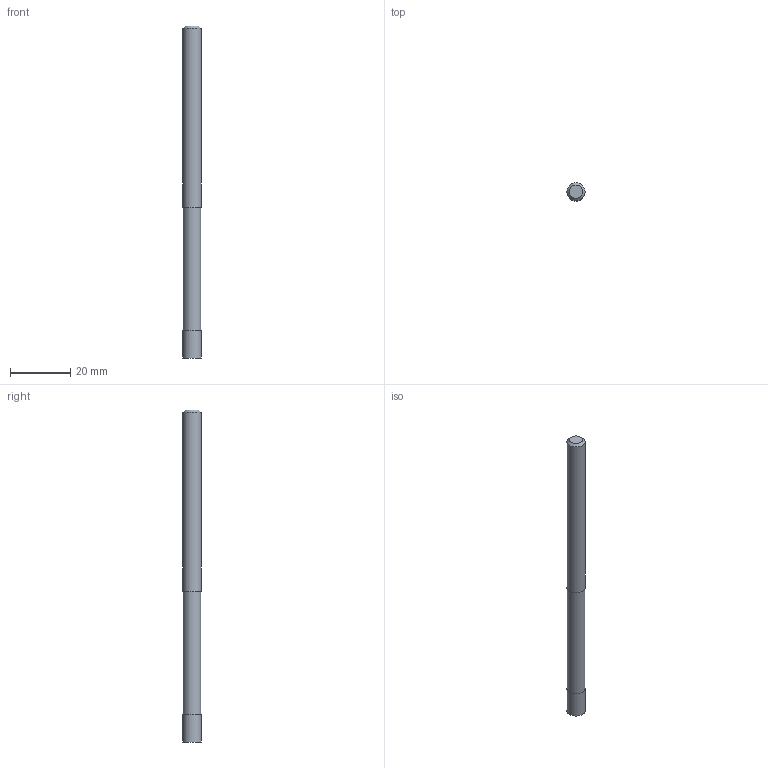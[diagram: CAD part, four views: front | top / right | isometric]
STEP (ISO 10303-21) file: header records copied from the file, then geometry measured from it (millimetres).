
FILE_DESCRIPTION((''),'2;1');
FILE_NAME('C:\Users\nsx150\AppData\Local\Temp\Mastercam 2021\17T8Q8S9EB\TEMP.step','2021-04-21T14:29:12',(''),(''),'STEP Write','Mastercam 2021 ... CNC Software, Inc.','');
FILE_SCHEMA(('AUTOMOTIVE_DESIGN'));
Length unit declared in the file: millimetre
Products named in the file (1): None
Bounding box: 6 x 6 x 110 mm (x, y, z)
Volume: 3028.7 mm3; surface area: 2151.1 mm2
Topology: 2 solids, 2 shells, 9 faces, 11 edges, 7 vertices
Faces by surface type: plane 5, cylinder 3, cone 1
Full cylindrical faces by diameter (mm): 5.8 x1, 6 x2
Entity records: 211 total; most frequent: DIRECTION 36, CARTESIAN_POINT 25, AXIS2_PLACEMENT_3D 18, ORIENTED_EDGE 14, EDGE_LOOP 14, STYLED_ITEM 12, ADVANCED_FACE 9, FACE_BOUND 8
